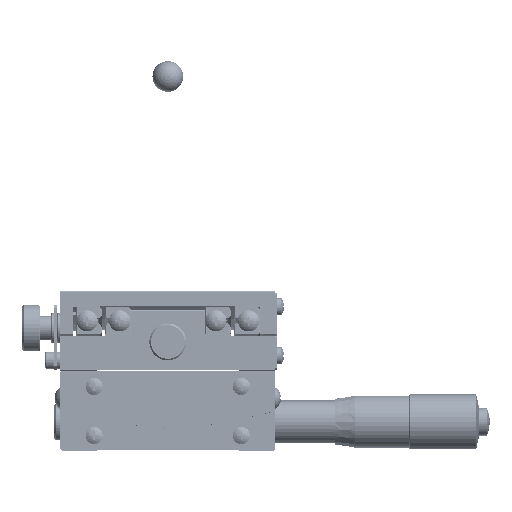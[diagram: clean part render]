
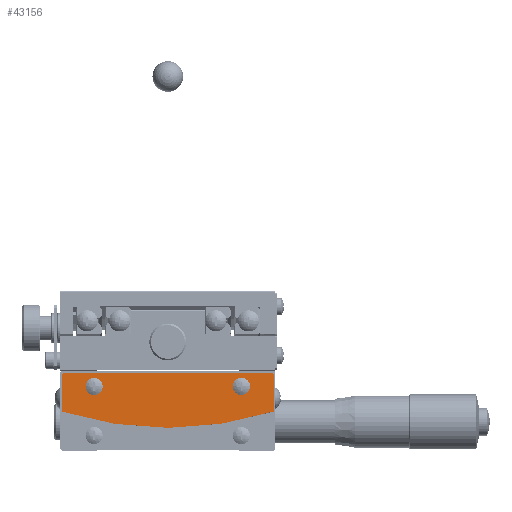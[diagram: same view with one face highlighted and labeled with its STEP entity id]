
A CAD part, front view. The second image highlights one B-rep face of the part: STEP entity #43156.
In plain terms, the highlighted planar face has unit normal (0, -1, 0).
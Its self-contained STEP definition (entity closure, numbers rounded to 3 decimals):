
#8615 = DIRECTION ( 'NONE',  ( 0., 0., -1. ) ) ;
#8616 = DIRECTION ( 'NONE',  ( 0., 1., 0. ) ) ;
#8617 = CARTESIAN_POINT ( 'NONE',  ( -24., -35.5, -5. ) ) ;
#8618 = AXIS2_PLACEMENT_3D ( 'NONE', #8617, #8616, #8615 ) ;
#8619 = CIRCLE ( 'NONE', #8618, 2.8 ) ;
#8627 = DIRECTION ( 'NONE',  ( 1., 0., 0. ) ) ;
#8628 = DIRECTION ( 'NONE',  ( 0., -1., 0. ) ) ;
#8629 = CARTESIAN_POINT ( 'NONE',  ( -34., -35.5, -12.812 ) ) ;
#8630 = AXIS2_PLACEMENT_3D ( 'NONE', #8629, #8628, #8627 ) ;
#8631 = FACE_OUTER_BOUND ( 'NONE', #43231, .T. ) ;
#8632 = FACE_BOUND ( 'NONE', #43173, .T. ) ;
#8633 = FACE_BOUND ( 'NONE', #43159, .T. ) ;
#8639 = PLANE ( 'NONE',  #8630 ) ;
#8691 = DIRECTION ( 'NONE',  ( 0., 0., -1. ) ) ;
#8692 = DIRECTION ( 'NONE',  ( 0., 1., 0. ) ) ;
#8693 = CARTESIAN_POINT ( 'NONE',  ( 24., -35.5, -5. ) ) ;
#8694 = AXIS2_PLACEMENT_3D ( 'NONE', #8693, #8692, #8691 ) ;
#8695 = CIRCLE ( 'NONE', #8694, 2.8 ) ;
#8711 = CARTESIAN_POINT ( 'NONE',  ( -34., -35.5, -0.5 ) ) ;
#8712 = CARTESIAN_POINT ( 'NONE',  ( 34., -35.5, -0.5 ) ) ;
#8717 = DIRECTION ( 'NONE',  ( -1., 0., 0. ) ) ;
#8718 = VECTOR ( 'NONE', #8717, 1000. ) ;
#8719 = CARTESIAN_POINT ( 'NONE',  ( 34., -35.5, -0.5 ) ) ;
#8720 = LINE ( 'NONE', #8719, #8718 ) ;
#8746 = CARTESIAN_POINT ( 'NONE',  ( -34.149, -35.5, -13.289 ) ) ;
#8747 = DIRECTION ( 'NONE',  ( 1., 0., 0. ) ) ;
#8748 = DIRECTION ( 'NONE',  ( 0., -1., 0. ) ) ;
#8749 = CARTESIAN_POINT ( 'NONE',  ( -34., -35.5, -12.812 ) ) ;
#8750 = AXIS2_PLACEMENT_3D ( 'NONE', #8749, #8748, #8747 ) ;
#8751 = CIRCLE ( 'NONE', #8750, 0.5 ) ;
#8759 = CARTESIAN_POINT ( 'NONE',  ( -34.5, -35.5, -12.812 ) ) ;
#8760 = DIRECTION ( 'NONE',  ( 0., 0., -1. ) ) ;
#8761 = VECTOR ( 'NONE', #8760, 1000. ) ;
#8762 = CARTESIAN_POINT ( 'NONE',  ( -34.5, -35.5, -1. ) ) ;
#8763 = LINE ( 'NONE', #8762, #8761 ) ;
#8770 = CARTESIAN_POINT ( 'NONE',  ( -34.5, -35.5, -1. ) ) ;
#8771 = DIRECTION ( 'NONE',  ( -0.707, 0., -0.707 ) ) ;
#8772 = VECTOR ( 'NONE', #8771, 1000. ) ;
#8773 = CARTESIAN_POINT ( 'NONE',  ( -34., -35.5, -0.5 ) ) ;
#8774 = LINE ( 'NONE', #8773, #8772 ) ;
#8809 = CARTESIAN_POINT ( 'NONE',  ( 34.5, -35.5, -1. ) ) ;
#8810 = DIRECTION ( 'NONE',  ( 0., 0., 1. ) ) ;
#8811 = VECTOR ( 'NONE', #8810, 1000. ) ;
#8812 = CARTESIAN_POINT ( 'NONE',  ( 34.5, -35.5, -13.179 ) ) ;
#8813 = LINE ( 'NONE', #8812, #8811 ) ;
#8815 = CARTESIAN_POINT ( 'NONE',  ( 34.5, -35.5, -13.179 ) ) ;
#8819 = DIRECTION ( 'NONE',  ( 1., 0., 0. ) ) ;
#8820 = DIRECTION ( 'NONE',  ( 0., -1., 0. ) ) ;
#8821 = CARTESIAN_POINT ( 'NONE',  ( 0., -35.5, 96. ) ) ;
#8822 = AXIS2_PLACEMENT_3D ( 'NONE', #8821, #8820, #8819 ) ;
#8823 = CIRCLE ( 'NONE', #8822, 114.5 ) ;
#8853 = DIRECTION ( 'NONE',  ( -0.707, 0., 0.707 ) ) ;
#8854 = VECTOR ( 'NONE', #8853, 1000. ) ;
#8855 = CARTESIAN_POINT ( 'NONE',  ( 34.5, -35.5, -1. ) ) ;
#8856 = LINE ( 'NONE', #8855, #8854 ) ;
#10844 = CARTESIAN_POINT ( 'NONE',  ( -21.2, -35.5, -5. ) ) ;
#10845 = CARTESIAN_POINT ( 'NONE',  ( -26.8, -35.5, -5. ) ) ;
#10846 = DIRECTION ( 'NONE',  ( 0., 0., -1. ) ) ;
#10847 = DIRECTION ( 'NONE',  ( 0., 1., 0. ) ) ;
#10848 = CARTESIAN_POINT ( 'NONE',  ( -24., -35.5, -5. ) ) ;
#10849 = AXIS2_PLACEMENT_3D ( 'NONE', #10848, #10847, #10846 ) ;
#10854 = CIRCLE ( 'NONE', #10849, 2.8 ) ;
#11012 = CARTESIAN_POINT ( 'NONE',  ( 26.8, -35.5, -5. ) ) ;
#11013 = CARTESIAN_POINT ( 'NONE',  ( 21.2, -35.5, -5. ) ) ;
#11014 = DIRECTION ( 'NONE',  ( 0., 0., -1. ) ) ;
#11015 = DIRECTION ( 'NONE',  ( 0., 1., 0. ) ) ;
#11016 = CARTESIAN_POINT ( 'NONE',  ( 24., -35.5, -5. ) ) ;
#11017 = AXIS2_PLACEMENT_3D ( 'NONE', #11016, #11015, #11014 ) ;
#11018 = CIRCLE ( 'NONE', #11017, 2.8 ) ;
#43156 = ADVANCED_FACE ( 'NONE', ( #8633, #8632, #8631 ), #8639, .T. ) ;
#43159 = EDGE_LOOP ( 'NONE', ( #43163, #43171 ) ) ;
#43163 = ORIENTED_EDGE ( 'NONE', *, *, #43166, .T. ) ;
#43166 = EDGE_CURVE ( 'NONE', #45238, #45236, #8619, .T. ) ;
#43171 = ORIENTED_EDGE ( 'NONE', *, *, #45233, .T. ) ;
#43173 = EDGE_LOOP ( 'NONE', ( #43177, #43229 ) ) ;
#43177 = ORIENTED_EDGE ( 'NONE', *, *, #43225, .T. ) ;
#43225 = EDGE_CURVE ( 'NONE', #45389, #45387, #8695, .T. ) ;
#43229 = ORIENTED_EDGE ( 'NONE', *, *, #45384, .T. ) ;
#43231 = EDGE_LOOP ( 'NONE', ( #43235, #43251, #43261, #43272, #43324, #43335, #43346 ) ) ;
#43235 = ORIENTED_EDGE ( 'NONE', *, *, #43239, .T. ) ;
#43239 = EDGE_CURVE ( 'NONE', #43242, #43244, #8720, .T. ) ;
#43242 = VERTEX_POINT ( 'NONE', #8712 ) ;
#43244 = VERTEX_POINT ( 'NONE', #8711 ) ;
#43251 = ORIENTED_EDGE ( 'NONE', *, *, #43253, .T. ) ;
#43253 = EDGE_CURVE ( 'NONE', #43244, #43255, #8774, .T. ) ;
#43255 = VERTEX_POINT ( 'NONE', #8770 ) ;
#43261 = ORIENTED_EDGE ( 'NONE', *, *, #43264, .T. ) ;
#43264 = EDGE_CURVE ( 'NONE', #43255, #43265, #8763, .T. ) ;
#43265 = VERTEX_POINT ( 'NONE', #8759 ) ;
#43272 = ORIENTED_EDGE ( 'NONE', *, *, #43274, .T. ) ;
#43274 = EDGE_CURVE ( 'NONE', #43265, #43276, #8751, .T. ) ;
#43276 = VERTEX_POINT ( 'NONE', #8746 ) ;
#43324 = ORIENTED_EDGE ( 'NONE', *, *, #43329, .T. ) ;
#43329 = EDGE_CURVE ( 'NONE', #43276, #43333, #8823, .T. ) ;
#43333 = VERTEX_POINT ( 'NONE', #8815 ) ;
#43335 = ORIENTED_EDGE ( 'NONE', *, *, #43338, .T. ) ;
#43338 = EDGE_CURVE ( 'NONE', #43333, #43343, #8813, .T. ) ;
#43343 = VERTEX_POINT ( 'NONE', #8809 ) ;
#43346 = ORIENTED_EDGE ( 'NONE', *, *, #43349, .T. ) ;
#43349 = EDGE_CURVE ( 'NONE', #43343, #43242, #8856, .T. ) ;
#45233 = EDGE_CURVE ( 'NONE', #45236, #45238, #10854, .T. ) ;
#45236 = VERTEX_POINT ( 'NONE', #10845 ) ;
#45238 = VERTEX_POINT ( 'NONE', #10844 ) ;
#45384 = EDGE_CURVE ( 'NONE', #45387, #45389, #11018, .T. ) ;
#45387 = VERTEX_POINT ( 'NONE', #11013 ) ;
#45389 = VERTEX_POINT ( 'NONE', #11012 ) ;
